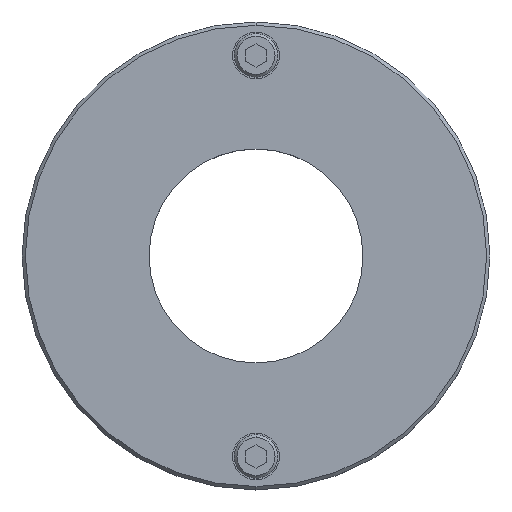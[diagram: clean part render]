
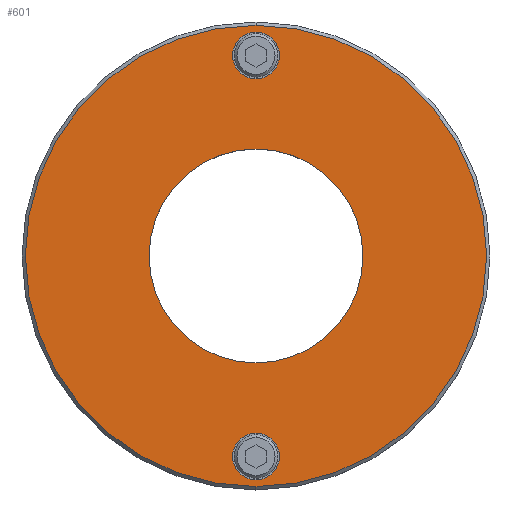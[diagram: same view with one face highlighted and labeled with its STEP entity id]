
A CAD part, top view. The second image highlights one B-rep face of the part: STEP entity #601.
In plain terms, the highlighted planar face has unit normal (0, 0, 1).
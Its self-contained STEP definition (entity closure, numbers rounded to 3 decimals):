
#124=VERTEX_POINT(' ',#125);
#125=CARTESIAN_POINT('',(0.,32.,15.));
#126=VERTEX_POINT(' ',#127);
#127=CARTESIAN_POINT('',(0.,-32.,15.));
#136=VERTEX_POINT(' ',#137);
#137=CARTESIAN_POINT('',(0.,67.,15.));
#138=VERTEX_POINT(' ',#139);
#139=CARTESIAN_POINT('',(0.,53.,15.));
#144=VERTEX_POINT(' ',#145);
#145=CARTESIAN_POINT('',(0.,-53.,15.));
#146=VERTEX_POINT(' ',#147);
#147=CARTESIAN_POINT('',(0.,-67.,15.));
#156=VERTEX_POINT(' ',#157);
#157=CARTESIAN_POINT('',(0.,69.,15.));
#158=VERTEX_POINT(' ',#159);
#159=CARTESIAN_POINT('',(0.,-69.,15.));
#218=CIRCLE('',#219,32.);
#219=AXIS2_PLACEMENT_3D('',#220,#221,#222);
#220=CARTESIAN_POINT('',(0.,0.,15.));
#221=DIRECTION('',(0.,0.,-1.));
#222=DIRECTION('',(-1.,0.,0.));
#223=EDGE_CURVE(' ',#124,#126,#218,.T.);
#224=CIRCLE('',#225,32.);
#225=AXIS2_PLACEMENT_3D('',#226,#227,#228);
#226=CARTESIAN_POINT('',(0.,0.,15.));
#227=DIRECTION('',(0.,0.,-1.));
#228=DIRECTION('',(1.,0.,0.));
#229=EDGE_CURVE(' ',#126,#124,#224,.T.);
#274=CIRCLE('',#275,7.);
#275=AXIS2_PLACEMENT_3D('',#276,#277,#278);
#276=CARTESIAN_POINT('',(0.,60.,15.));
#277=DIRECTION('',(0.,0.,1.));
#278=DIRECTION('',(1.,0.,0.));
#279=EDGE_CURVE(' ',#136,#138,#274,.T.);
#296=CIRCLE('',#297,7.);
#297=AXIS2_PLACEMENT_3D('',#298,#299,#300);
#298=CARTESIAN_POINT('',(0.,60.,15.));
#299=DIRECTION('',(0.,0.,1.));
#300=DIRECTION('',(-1.,0.,0.));
#301=EDGE_CURVE(' ',#138,#136,#296,.T.);
#308=CIRCLE('',#309,7.);
#309=AXIS2_PLACEMENT_3D('',#310,#311,#312);
#310=CARTESIAN_POINT('',(0.,-60.,15.));
#311=DIRECTION('',(0.,0.,1.));
#312=DIRECTION('',(1.,0.,0.));
#313=EDGE_CURVE(' ',#144,#146,#308,.T.);
#330=CIRCLE('',#331,7.);
#331=AXIS2_PLACEMENT_3D('',#332,#333,#334);
#332=CARTESIAN_POINT('',(0.,-60.,15.));
#333=DIRECTION('',(0.,0.,1.));
#334=DIRECTION('',(-1.,0.,0.));
#335=EDGE_CURVE(' ',#146,#144,#330,.T.);
#364=CIRCLE('',#365,69.);
#365=AXIS2_PLACEMENT_3D('',#366,#367,#368);
#366=CARTESIAN_POINT('',(0.,0.,15.));
#367=DIRECTION('',(0.,0.,1.));
#368=DIRECTION('',(1.,0.,0.));
#369=EDGE_CURVE(' ',#158,#156,#364,.F.);
#370=CIRCLE('',#371,69.);
#371=AXIS2_PLACEMENT_3D('',#372,#373,#374);
#372=CARTESIAN_POINT('',(0.,0.,15.));
#373=DIRECTION('',(0.,0.,1.));
#374=DIRECTION('',(-1.,0.,0.));
#375=EDGE_CURVE(' ',#156,#158,#370,.F.);
#580=ORIENTED_EDGE('',*,*,#369,.F.);
#581=ORIENTED_EDGE('',*,*,#375,.F.);
#582=EDGE_LOOP('',(#580,#581));
#583=FACE_OUTER_BOUND('',#582,.T.);
#584=ORIENTED_EDGE('',*,*,#335,.F.);
#585=ORIENTED_EDGE('',*,*,#313,.F.);
#586=EDGE_LOOP('',(#584,#585));
#587=FACE_BOUND('',#586,.T.);
#588=ORIENTED_EDGE('',*,*,#301,.F.);
#589=ORIENTED_EDGE('',*,*,#279,.F.);
#590=EDGE_LOOP('',(#588,#589));
#591=FACE_BOUND('',#590,.T.);
#592=ORIENTED_EDGE('',*,*,#223,.T.);
#593=ORIENTED_EDGE('',*,*,#229,.T.);
#594=EDGE_LOOP('',(#592,#593));
#595=FACE_BOUND('',#594,.T.);
#596=PLANE('',#597);
#597=AXIS2_PLACEMENT_3D('',#598,#599,#600);
#598=CARTESIAN_POINT('',(70.,0.,15.));
#599=DIRECTION('',(0.,0.,1.));
#600=DIRECTION('',(0.,1.,0.));
#601=ADVANCED_FACE('',(#583,#587,#591,#595),#596,.T.);
